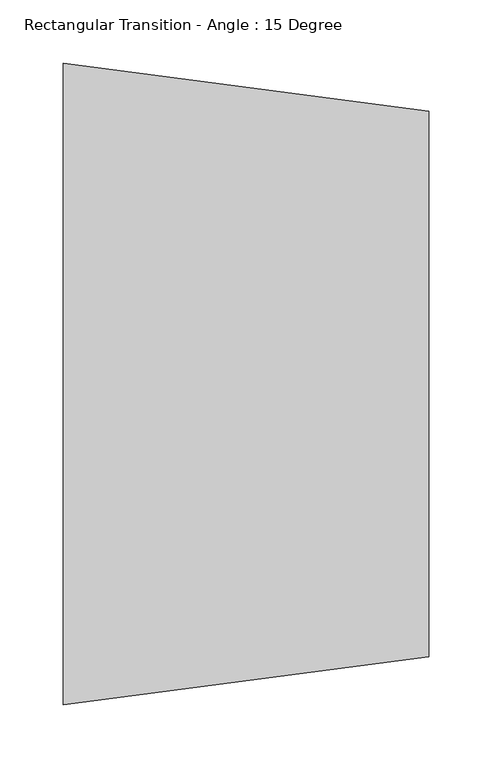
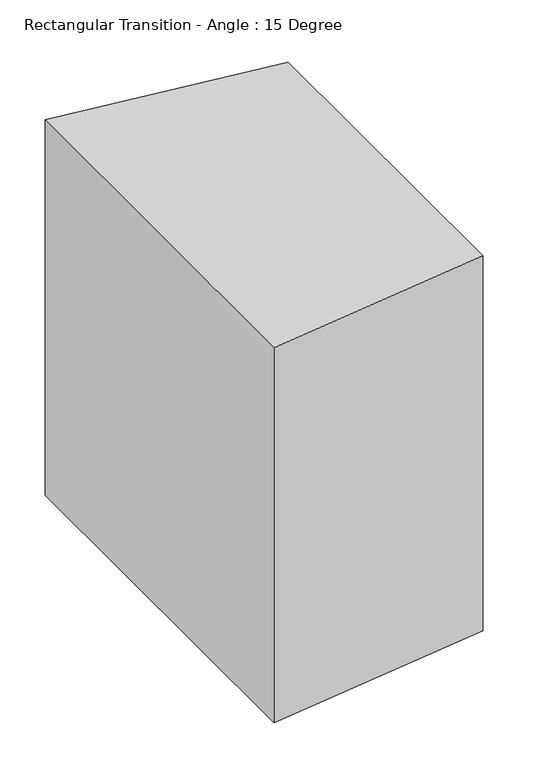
"""IFC4 building model written with IfcOpenShell, lengths in millimetres: duct fitting geometry, Rectangular Transition - Angle : 15 Degree."""

import ifcopenshell
import ifcopenshell.guid

model = None  # the IFC model being written
_history = None  # IfcOwnerHistory: only IFC2X3 demands one
_inside = {}  # id of a spatial element -> (the spatial element, [elements in it])
_under = {}  # id of a project, library or spatial element -> (it, [spatial elements below it])
_declared = {}  # id of a project -> (the project, [libraries it declares])
_typed = {}  # id of a type object -> (the type object, [elements of that type])
_made_of = {}  # id of a material, layer set ... -> (it, [elements and type objects made of it])


def new_model(schema):
    """Start an empty IFC model of exactly this schema.

    Asked for "IFC4X3", IfcOpenShell would pick the latest addendum, in which some entities
    have other attributes; the version numbers below select the first issue.
    IFC2X3 requires an IfcOwnerHistory on every rooted entity: one is made here for all.
    """
    global model, _history
    if schema == "IFC4X3":
        model = ifcopenshell.file(schema_version=(4, 3, 0, 0))
    else:
        model = ifcopenshell.file(schema=schema)
    _inside.clear()
    _under.clear()
    _declared.clear()
    _typed.clear()
    _made_of.clear()
    _history = None
    if model.schema == "IFC2X3":
        org = make("IfcOrganization", Name="unknown")
        user = make(
            "IfcPersonAndOrganization",
            ThePerson=make("IfcPerson", FamilyName="unknown"),
            TheOrganization=org,
        )
        app = make(
            "IfcApplication",
            ApplicationDeveloper=org,
            Version="unknown",
            ApplicationFullName="unknown",
            ApplicationIdentifier="unknown",
        )
        _history = make(
            "IfcOwnerHistory",
            OwningUser=user,
            OwningApplication=app,
            ChangeAction="ADDED",
            CreationDate=0,
        )
    return model


def make(cls, **values):
    """One entity of the class cls with the attributes given. An attribute that is None is left unset."""
    return model.create_entity(
        cls, **{name: value for name, value in values.items() if value is not None}
    )


def rooted(cls, **values):
    """An entity with a GlobalId (a new one), such as an element, a storey or a relation."""
    return make(cls, GlobalId=ifcopenshell.guid.new(), OwnerHistory=_history, **values)


def si_unit(unit_type, name, prefix=None):
    """IfcSIUnit, for example si_unit("LENGTHUNIT", "METRE", prefix="MILLI")."""
    return make("IfcSIUnit", UnitType=unit_type, Prefix=prefix, Name=name)


def assignment(units):
    """IfcUnitAssignment: the units of a project."""
    return None if units is None else make("IfcUnitAssignment", Units=units)


def point(xyz):
    """IfcCartesianPoint."""
    return None if xyz is None else make("IfcCartesianPoint", Coordinates=xyz)


def direction(xyz):
    """IfcDirection."""
    return None if xyz is None else make("IfcDirection", DirectionRatios=xyz)


def frame(location, z_axis=None, x_axis=None):
    """IfcAxis2Placement3D, a coordinate frame: its origin and axes. An axis left out is left unset."""
    return make(
        "IfcAxis2Placement3D",
        Location=point(location),
        Axis=direction(z_axis),
        RefDirection=direction(x_axis),
    )


def origin():
    """The frame at (0, 0, 0) with its axes left unset."""
    return frame((0.0, 0.0, 0.0))


def place(relative_to, where):
    """IfcLocalPlacement: puts the frame where relative to a parent placement (None: the world)."""
    return make(
        "IfcLocalPlacement", PlacementRelTo=relative_to, RelativePlacement=where
    )


def context(
    kind, dimensions, precision=None, world=None, true_north=None, identifier=None
):
    """IfcGeometricRepresentationContext, for example the 3D "Model" context."""
    return make(
        "IfcGeometricRepresentationContext",
        ContextIdentifier=identifier,
        ContextType=kind,
        CoordinateSpaceDimension=dimensions,
        Precision=precision,
        WorldCoordinateSystem=world,
        TrueNorth=true_north,
    )


def project(units=None, contexts=None):
    """IfcProject with its units and contexts."""
    return rooted(
        "IfcProject",
        Name="project",
        RepresentationContexts=contexts,
        UnitsInContext=assignment(units),
    )


def spatial(cls, under=None, at=None, **own):
    """A site, building, storey or space (cls), placed at a placement, below another one or the project."""
    s = rooted(cls, ObjectPlacement=at, **own)
    if under is not None:
        _under.setdefault(under.id(), (under, []))[1].append(s)
    return s


def polyline(points):
    """IfcPolyline through the points."""
    return make("IfcPolyline", Points=[point(p) for p in points])


def outline(outer, holes=None, kind="AREA"):
    """IfcArbitraryClosedProfileDef: a profile drawn as a closed curve; with holes, ...WithVoids."""
    if holes is None:
        return make("IfcArbitraryClosedProfileDef", ProfileType=kind, OuterCurve=outer)
    return make(
        "IfcArbitraryProfileDefWithVoids",
        ProfileType=kind,
        OuterCurve=outer,
        InnerCurves=holes,
    )


def extrude(swept, where, along, depth):
    """IfcExtrudedAreaSolid: the profile swept, set in the frame where, extruded along a direction by depth."""
    return make(
        "IfcExtrudedAreaSolid",
        SweptArea=swept,
        Position=where,
        ExtrudedDirection=direction(along),
        Depth=depth,
    )


def shape(context_of_items, identifier, shape_type, items):
    """IfcShapeRepresentation: the items that make up one representation, for example the "Body"."""
    return make(
        "IfcShapeRepresentation",
        ContextOfItems=context_of_items,
        RepresentationIdentifier=identifier,
        RepresentationType=shape_type,
        Items=items,
    )


def source(mapping_origin, context_of_items, identifier, shape_type, items):
    """IfcRepresentationMap: a shape defined once, which mapped items show again and again."""
    return make(
        "IfcRepresentationMap",
        MappingOrigin=mapping_origin,
        MappedRepresentation=shape(context_of_items, identifier, shape_type, items),
    )


def transform(
    local_origin,
    x_axis=None,
    y_axis=None,
    z_axis=None,
    scale=None,
    scale2=None,
    scale3=None,
    uniform=True,
):
    """IfcCartesianTransformationOperator3D, or its non-uniform kind. x_axis, y_axis, z_axis: its Axis1, 2, 3."""
    if uniform:
        return make(
            "IfcCartesianTransformationOperator3D",
            Axis1=direction(x_axis),
            Axis2=direction(y_axis),
            LocalOrigin=point(local_origin),
            Scale=scale,
            Axis3=direction(z_axis),
        )
    return make(
        "IfcCartesianTransformationOperator3DnonUniform",
        Axis1=direction(x_axis),
        Axis2=direction(y_axis),
        LocalOrigin=point(local_origin),
        Scale=scale,
        Axis3=direction(z_axis),
        Scale2=scale2,
        Scale3=scale3,
    )


def mapped(mapping_source, mapping_target):
    """IfcMappedItem: shows the shape of a source again, moved by a transform."""
    return make(
        "IfcMappedItem", MappingSource=mapping_source, MappingTarget=mapping_target
    )


def made_of(thing, what):
    """Note that an element or type object is made of a material, layer set ...; save() writes the relation."""
    if what is not None:
        _made_of.setdefault(what.id(), (what, []))[1].append(thing)
    return thing


def element(
    cls,
    number,
    at=None,
    inside=None,
    cuts=None,
    type_object=None,
    material=None,
    context=None,
    identifier="Body",
    shape_type=None,
    held_by="IfcProductDefinitionShape",
    body=None,
    shapes=None,
    **own,
):
    """One element of the class cls, such as IfcWall. Its Tag is "e" and its number.

    at: its placement. inside: the storey or other place that contains it. cuts: it is an
    opening in that element (IfcRelVoidsElement). A single representation is given by context,
    identifier, shape_type and body (its items); several are given by shapes. held_by: the class
    of the entity that holds the representations. save() writes the other relations.
    """
    e = rooted(cls, Tag="e%d" % number, ObjectPlacement=at, **own)
    if body is not None:
        shapes = [shape(context, identifier, shape_type, body)]
    if shapes is not None:
        e.Representation = make(held_by, Representations=shapes)
    if inside is not None:
        _inside.setdefault(inside.id(), (inside, []))[1].append(e)
    if cuts is not None:
        rooted(
            "IfcRelVoidsElement", RelatingBuildingElement=cuts, RelatedOpeningElement=e
        )
    if type_object is not None:
        _typed.setdefault(type_object.id(), (type_object, []))[1].append(e)
    return made_of(e, material)


def aggregate(whole, parts):
    """IfcRelAggregates: a whole, such as a stair, and the parts it consists of."""
    return rooted("IfcRelAggregates", RelatingObject=whole, RelatedObjects=parts)


def save(model, path):
    """Write the relations noted so far, then the file.

    IfcRelAggregates (storeys below a building ...), IfcRelContainedInSpatialStructure (elements
    in a storey), IfcRelDefinesByType, IfcRelAssociatesMaterial and IfcRelDeclares: one each for
    every whole, place, type object, material and project.
    """
    for whole, parts in _under.values():
        aggregate(whole, parts)
    for where, things in _inside.values():
        rooted(
            "IfcRelContainedInSpatialStructure",
            RelatedElements=things,
            RelatingStructure=where,
        )
    for kind, things in _typed.values():
        rooted("IfcRelDefinesByType", RelatedObjects=things, RelatingType=kind)
    for what, things in _made_of.values():
        rooted("IfcRelAssociatesMaterial", RelatedObjects=things, RelatingMaterial=what)
    for by, libraries in _declared.values():
        rooted("IfcRelDeclares", RelatingContext=by, RelatedDefinitions=libraries)
    model.write(path)


def rectangular_transition_angle_15_degree_744037f3(model_context):
    return source(origin(), model_context, "Body", "SweptSolid", [
        extrude(outline(polyline([(0.0, 254.0), (289.3982317, 215.9), (289.3982317, -215.9), (0.0, -254.0), (0.0, 254.0)])), frame((0.0, 0.0, -254.0), z_axis=(0.0, 0.0, 1.0), x_axis=(1.0, 0.0, 0.0)), (0.0, 0.0, 1.0), 508.0),
    ])


if __name__ == "__main__":
    model = new_model("IFC4")
    model_context = context("Model", 3, world=origin())
    ifc_project = project(units=[si_unit("LENGTHUNIT", "METRE", prefix="MILLI")], contexts=[model_context])
    site = spatial("IfcSite", under=ifc_project)
    building = spatial("IfcBuilding", under=site)
    placement = place(None, origin())
    rectangular_transition_angle_15_degree_shape = rectangular_transition_angle_15_degree_744037f3(model_context)
    element("IfcDuctFitting", 1, ObjectType="Rectangular Transition - Angle : 15 Degree", at=placement, inside=building, context=model_context, shape_type="MappedRepresentation", body=[
        mapped(rectangular_transition_angle_15_degree_shape, transform((0.0, 0.0, 0.0), x_axis=(1.0, 0.0, 0.0), y_axis=(0.0, 1.0, 0.0), z_axis=(0.0, 0.0, 1.0))),
    ])
    save(model, "model.ifc")
